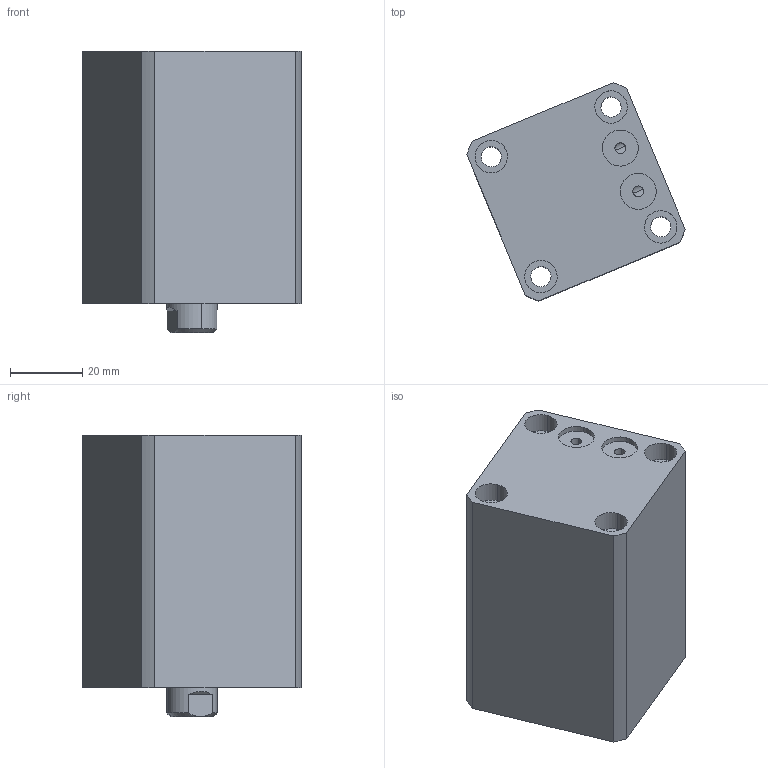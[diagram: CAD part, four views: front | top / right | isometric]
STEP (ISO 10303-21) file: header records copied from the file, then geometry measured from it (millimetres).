
FILE_DESCRIPTION (( 'STEP AP214' ), '1' );
FILE_NAME ('chtb-sdmb25x25n_asm.STEP', '2018-05-24T01:23:22', ( 'Windows' ), ( 'Microsoft' ), 'SwSTEP 2.0', 'SolidWorks 2015', '' );
FILE_SCHEMA (( 'AUTOMOTIVE_DESIGN' ));
Length unit declared in the file: millimetre
Products named in the file (4): CHTB-SDMB25X25NHSG; CHTB-SDMB25X25NBT; CHTB-25QG; chtb-sdmb25x25n_asm
Assembly tree (3 placements, depth 2):
  chtb-sdmb25x25n_asm
    CHTB-25QG
    CHTB-SDMB25X25NBT
    CHTB-SDMB25X25NHSG
Bounding box: 60.55 x 60.55 x 78 mm (x, y, z)
Volume: 140949.7 mm3; surface area: 39500.7 mm2
Topology: 3 solids, 3 shells, 142 faces, 379 edges, 257 vertices
Faces by surface type: cylinder 89, plane 34, bspline 10, cone 9
Entity records: 8024 total; most frequent: CARTESIAN_POINT 4397, ORIENTED_EDGE 746, DIRECTION 661, EDGE_CURVE 373, AXIS2_PLACEMENT_3D 272, VERTEX_POINT 257, EDGE_LOOP 180, ADVANCED_FACE 142
